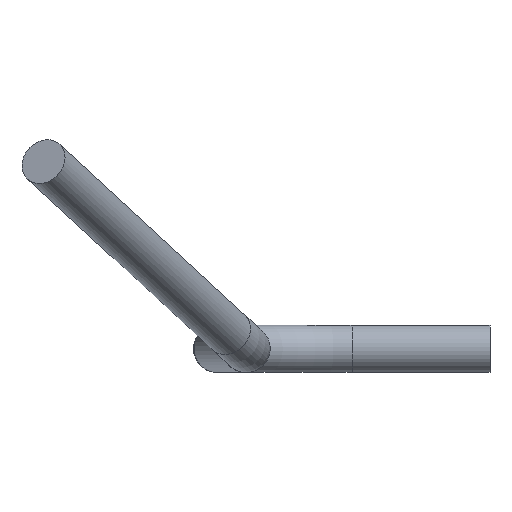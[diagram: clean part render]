
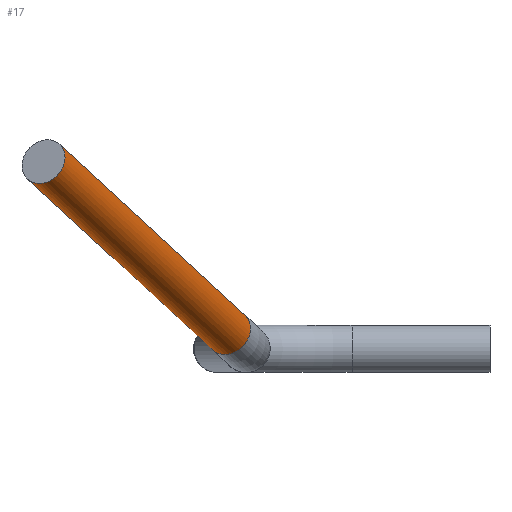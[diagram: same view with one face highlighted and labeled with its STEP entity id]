
A CAD part, front view. The second image highlights one B-rep face of the part: STEP entity #17.
In plain terms, the highlighted cylindrical face has radius 0.525 mm (diameter 1.05 mm), a full revolution.
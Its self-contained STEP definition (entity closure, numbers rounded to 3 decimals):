
#17 = ADVANCED_FACE('',(#18),#32,.T.);
#18 = FACE_BOUND('',#19,.T.);
#19 = EDGE_LOOP('',(#20,#49,#75,#76));
#20 = ORIENTED_EDGE('',*,*,#21,.T.);
#21 = EDGE_CURVE('',#22,#24,#26,.T.);
#22 = VERTEX_POINT('',#23);
#23 = CARTESIAN_POINT('',(19.469,-39.137,-7.3));
#24 = VERTEX_POINT('',#25);
#25 = CARTESIAN_POINT('',(23.58,-31.005,
    -11.092));
#26 = SEAM_CURVE('',#27,(#31,#42),.PCURVE_S1.);
#27 = LINE('',#28,#29);
#28 = CARTESIAN_POINT('',(19.469,-39.137,-7.3));
#29 = VECTOR('',#30,1.);
#30 = DIRECTION('',(0.417,0.824,-0.384));
#31 = PCURVE('',#32,#37);
#32 = CYLINDRICAL_SURFACE('',#33,0.525);
#33 = AXIS2_PLACEMENT_3D('',#34,#35,#36);
#34 = CARTESIAN_POINT('',(19.,-38.9,-7.3));
#35 = DIRECTION('',(0.417,0.824,-0.384));
#36 = DIRECTION('',(0.892,-0.451,0.)
  );
#37 = DEFINITIONAL_REPRESENTATION('',(#38),#41);
#38 = B_SPLINE_CURVE_WITH_KNOTS('',1,(#39,#40),.UNSPECIFIED.,.F.,.F.,(2,
    2),(0.,9.87),.PIECEWISE_BEZIER_KNOTS.);
#39 = CARTESIAN_POINT('',(6.283,0.));
#40 = CARTESIAN_POINT('',(6.283,9.87));
#41 = ( GEOMETRIC_REPRESENTATION_CONTEXT(2) 
PARAMETRIC_REPRESENTATION_CONTEXT() REPRESENTATION_CONTEXT('2D SPACE',''
  ) );
#42 = PCURVE('',#32,#43);
#43 = DEFINITIONAL_REPRESENTATION('',(#44),#48);
#44 = LINE('',#45,#46);
#45 = CARTESIAN_POINT('',(0.,0.));
#46 = VECTOR('',#47,1.);
#47 = DIRECTION('',(0.,1.));
#48 = ( GEOMETRIC_REPRESENTATION_CONTEXT(2) 
PARAMETRIC_REPRESENTATION_CONTEXT() REPRESENTATION_CONTEXT('2D SPACE',''
  ) );
#49 = ORIENTED_EDGE('',*,*,#50,.F.);
#50 = EDGE_CURVE('',#24,#24,#51,.T.);
#51 = SURFACE_CURVE('',#52,(#57,#64),.PCURVE_S1.);
#52 = CIRCLE('',#53,0.525);
#53 = AXIS2_PLACEMENT_3D('',#54,#55,#56);
#54 = CARTESIAN_POINT('',(23.112,-30.768,
    -11.092));
#55 = DIRECTION('',(0.417,0.824,-0.384));
#56 = DIRECTION('',(0.892,-0.451,0.)
  );
#57 = PCURVE('',#32,#58);
#58 = DEFINITIONAL_REPRESENTATION('',(#59),#63);
#59 = LINE('',#60,#61);
#60 = CARTESIAN_POINT('',(0.,9.87));
#61 = VECTOR('',#62,1.);
#62 = DIRECTION('',(1.,0.));
#63 = ( GEOMETRIC_REPRESENTATION_CONTEXT(2) 
PARAMETRIC_REPRESENTATION_CONTEXT() REPRESENTATION_CONTEXT('2D SPACE',''
  ) );
#64 = PCURVE('',#65,#70);
#65 = TOROIDAL_SURFACE('',#66,3.,0.525);
#66 = AXIS2_PLACEMENT_3D('',#67,#68,#69);
#67 = CARTESIAN_POINT('',(21.295,-29.068,
    -9.416));
#68 = DIRECTION('',(0.678,0.,0.735));
#69 = DIRECTION('',(0.606,-0.567,-0.559));
#70 = DEFINITIONAL_REPRESENTATION('',(#71),#74);
#71 = B_SPLINE_CURVE_WITH_KNOTS('',1,(#72,#73),.UNSPECIFIED.,.F.,.F.,(2,
    2),(0.,6.283),.PIECEWISE_BEZIER_KNOTS.);
#72 = CARTESIAN_POINT('',(0.,6.933));
#73 = CARTESIAN_POINT('',(0.,0.65));
#74 = ( GEOMETRIC_REPRESENTATION_CONTEXT(2) 
PARAMETRIC_REPRESENTATION_CONTEXT() REPRESENTATION_CONTEXT('2D SPACE',''
  ) );
#75 = ORIENTED_EDGE('',*,*,#21,.F.);
#76 = ORIENTED_EDGE('',*,*,#77,.T.);
#77 = EDGE_CURVE('',#22,#22,#78,.T.);
#78 = SURFACE_CURVE('',#79,(#84,#91),.PCURVE_S1.);
#79 = CIRCLE('',#80,0.525);
#80 = AXIS2_PLACEMENT_3D('',#81,#82,#83);
#81 = CARTESIAN_POINT('',(19.,-38.9,-7.3));
#82 = DIRECTION('',(0.417,0.824,-0.384));
#83 = DIRECTION('',(0.892,-0.451,0.)
  );
#84 = PCURVE('',#32,#85);
#85 = DEFINITIONAL_REPRESENTATION('',(#86),#90);
#86 = LINE('',#87,#88);
#87 = CARTESIAN_POINT('',(0.,0.));
#88 = VECTOR('',#89,1.);
#89 = DIRECTION('',(1.,0.));
#90 = ( GEOMETRIC_REPRESENTATION_CONTEXT(2) 
PARAMETRIC_REPRESENTATION_CONTEXT() REPRESENTATION_CONTEXT('2D SPACE',''
  ) );
#91 = PCURVE('',#92,#97);
#92 = PLANE('',#93);
#93 = AXIS2_PLACEMENT_3D('',#94,#95,#96);
#94 = CARTESIAN_POINT('',(19.,-38.9,-7.3));
#95 = DIRECTION('',(0.417,0.824,-0.384));
#96 = DIRECTION('',(0.892,-0.451,0.)
  );
#97 = DEFINITIONAL_REPRESENTATION('',(#98),#102);
#98 = CIRCLE('',#99,0.525);
#99 = AXIS2_PLACEMENT_2D('',#100,#101);
#100 = CARTESIAN_POINT('',(0.,0.));
#101 = DIRECTION('',(1.,0.));
#102 = ( GEOMETRIC_REPRESENTATION_CONTEXT(2) 
PARAMETRIC_REPRESENTATION_CONTEXT() REPRESENTATION_CONTEXT('2D SPACE',''
  ) );
